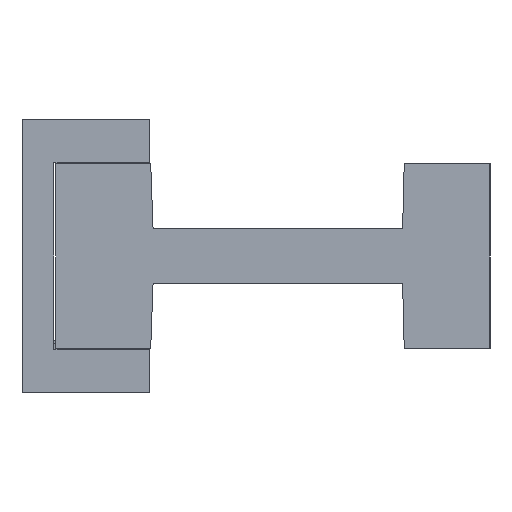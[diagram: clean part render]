
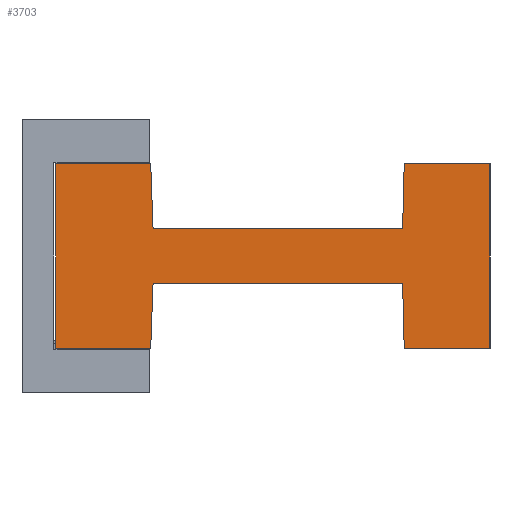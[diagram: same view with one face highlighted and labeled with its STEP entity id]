
A CAD part, left-side view. The second image highlights one B-rep face of the part: STEP entity #3703.
In plain terms, the highlighted planar face has unit normal (-1, 0, 0).
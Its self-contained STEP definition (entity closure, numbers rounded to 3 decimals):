
#48 = DIRECTION ( 'NONE',  ( 0., 0.036, -0.999 ) ) ;
#80 = EDGE_CURVE ( 'NONE', #104, #3376, #1808, .T. ) ;
#87 = VECTOR ( 'NONE', #710, 1000. ) ;
#104 = VERTEX_POINT ( 'NONE', #2620 ) ;
#170 = LINE ( 'NONE', #266, #4037 ) ;
#228 = CARTESIAN_POINT ( 'NONE',  ( -1.487, -60., 255.96 ) ) ;
#241 = DIRECTION ( 'NONE',  ( 0., 0.024, 1. ) ) ;
#257 = CARTESIAN_POINT ( 'NONE',  ( -1.487, -16.8, 240.61 ) ) ;
#266 = CARTESIAN_POINT ( 'NONE',  ( -1.487, -4.3, 255.96 ) ) ;
#287 = CARTESIAN_POINT ( 'NONE',  ( -1.487, -60., 232.26 ) ) ;
#418 = VECTOR ( 'NONE', #574, 1000. ) ;
#427 = CARTESIAN_POINT ( 'NONE',  ( -1.487, -16.8, 240.61 ) ) ;
#455 = LINE ( 'NONE', #3425, #2993 ) ;
#528 = ORIENTED_EDGE ( 'NONE', *, *, #3826, .T. ) ;
#574 = DIRECTION ( 'NONE',  ( 0., 0., 1. ) ) ;
#618 = CARTESIAN_POINT ( 'NONE',  ( -1.487, -48.8, 240.61 ) ) ;
#691 = CARTESIAN_POINT ( 'NONE',  ( -1.487, -4.3, 232.26 ) ) ;
#698 = VERTEX_POINT ( 'NONE', #3645 ) ;
#710 = DIRECTION ( 'NONE',  ( 0., 0.036, 0.999 ) ) ;
#735 = VERTEX_POINT ( 'NONE', #1980 ) ;
#817 = CARTESIAN_POINT ( 'NONE',  ( -1.487, -60., 232.26 ) ) ;
#899 = VECTOR ( 'NONE', #3677, 1000. ) ;
#927 = ORIENTED_EDGE ( 'NONE', *, *, #2356, .F. ) ;
#956 = CARTESIAN_POINT ( 'NONE',  ( -1.487, -49., 255.96 ) ) ;
#963 = DIRECTION ( 'NONE',  ( 0., 1., 0. ) ) ;
#1083 = VERTEX_POINT ( 'NONE', #427 ) ;
#1106 = LINE ( 'NONE', #4452, #1451 ) ;
#1154 = DIRECTION ( 'NONE',  ( 0., 1., 0. ) ) ;
#1161 = LINE ( 'NONE', #2603, #3671 ) ;
#1211 = CARTESIAN_POINT ( 'NONE',  ( -1.487, -48.8, 240.61 ) ) ;
#1229 = DIRECTION ( 'NONE',  ( 0., 0.024, -1. ) ) ;
#1262 = LINE ( 'NONE', #2748, #418 ) ;
#1282 = ORIENTED_EDGE ( 'NONE', *, *, #2179, .F. ) ;
#1286 = VERTEX_POINT ( 'NONE', #228 ) ;
#1297 = DIRECTION ( 'NONE',  ( -1., 0., 0. ) ) ;
#1304 = ORIENTED_EDGE ( 'NONE', *, *, #4257, .T. ) ;
#1324 = CARTESIAN_POINT ( 'NONE',  ( -1.487, -60., 244.11 ) ) ;
#1390 = LINE ( 'NONE', #691, #2987 ) ;
#1451 = VECTOR ( 'NONE', #1154, 1000. ) ;
#1536 = CARTESIAN_POINT ( 'NONE',  ( -1.487, -16.5, 232.26 ) ) ;
#1716 = EDGE_LOOP ( 'NONE', ( #2698, #2696, #4413, #2258, #927, #1282, #3011, #1304, #528, #1910, #2789, #4276 ) ) ;
#1734 = DIRECTION ( 'NONE',  ( 0., 1., 0. ) ) ;
#1774 = LINE ( 'NONE', #257, #3240 ) ;
#1808 = LINE ( 'NONE', #2912, #87 ) ;
#1908 = EDGE_CURVE ( 'NONE', #2676, #1286, #1262, .T. ) ;
#1910 = ORIENTED_EDGE ( 'NONE', *, *, #3670, .T. ) ;
#1980 = CARTESIAN_POINT ( 'NONE',  ( -1.487, -4.3, 232.26 ) ) ;
#2008 = LINE ( 'NONE', #817, #2109 ) ;
#2109 = VECTOR ( 'NONE', #2290, 1000. ) ;
#2179 = EDGE_CURVE ( 'NONE', #2676, #4303, #2008, .T. ) ;
#2192 = DIRECTION ( 'NONE',  ( 0., 1., 0. ) ) ;
#2258 = ORIENTED_EDGE ( 'NONE', *, *, #3653, .F. ) ;
#2290 = DIRECTION ( 'NONE',  ( 0., 1., 0. ) ) ;
#2356 = EDGE_CURVE ( 'NONE', #4303, #4056, #3584, .T. ) ;
#2536 = EDGE_CURVE ( 'NONE', #3376, #2804, #170, .T. ) ;
#2603 = CARTESIAN_POINT ( 'NONE',  ( -1.487, -16.8, 240.61 ) ) ;
#2620 = CARTESIAN_POINT ( 'NONE',  ( -1.487, -16.8, 247.61 ) ) ;
#2676 = VERTEX_POINT ( 'NONE', #287 ) ;
#2696 = ORIENTED_EDGE ( 'NONE', *, *, #3238, .F. ) ;
#2698 = ORIENTED_EDGE ( 'NONE', *, *, #3251, .T. ) ;
#2748 = CARTESIAN_POINT ( 'NONE',  ( -1.487, -60., 244.11 ) ) ;
#2781 = DIRECTION ( 'NONE',  ( 0., 0., 1. ) ) ;
#2789 = ORIENTED_EDGE ( 'NONE', *, *, #80, .T. ) ;
#2804 = VERTEX_POINT ( 'NONE', #3763 ) ;
#2912 = CARTESIAN_POINT ( 'NONE',  ( -1.487, -16.8, 247.61 ) ) ;
#2966 = CARTESIAN_POINT ( 'NONE',  ( -1.487, -16.5, 255.96 ) ) ;
#2987 = VECTOR ( 'NONE', #2192, 1000. ) ;
#2993 = VECTOR ( 'NONE', #1229, 1000. ) ;
#3011 = ORIENTED_EDGE ( 'NONE', *, *, #1908, .T. ) ;
#3151 = AXIS2_PLACEMENT_3D ( 'NONE', #1324, #1297, #2781 ) ;
#3182 = VERTEX_POINT ( 'NONE', #956 ) ;
#3238 = EDGE_CURVE ( 'NONE', #3343, #735, #1390, .T. ) ;
#3240 = VECTOR ( 'NONE', #4244, 1000. ) ;
#3251 = EDGE_CURVE ( 'NONE', #2804, #735, #3634, .T. ) ;
#3343 = VERTEX_POINT ( 'NONE', #1536 ) ;
#3354 = EDGE_CURVE ( 'NONE', #1083, #3343, #1161, .T. ) ;
#3364 = VECTOR ( 'NONE', #241, 1000. ) ;
#3376 = VERTEX_POINT ( 'NONE', #2966 ) ;
#3425 = CARTESIAN_POINT ( 'NONE',  ( -1.487, -48.8, 247.61 ) ) ;
#3584 = LINE ( 'NONE', #618, #3364 ) ;
#3634 = LINE ( 'NONE', #4387, #899 ) ;
#3645 = CARTESIAN_POINT ( 'NONE',  ( -1.487, -48.8, 247.61 ) ) ;
#3653 = EDGE_CURVE ( 'NONE', #4056, #1083, #1774, .T. ) ;
#3670 = EDGE_CURVE ( 'NONE', #698, #104, #4262, .T. ) ;
#3671 = VECTOR ( 'NONE', #48, 1000. ) ;
#3677 = DIRECTION ( 'NONE',  ( 0., 0., -1. ) ) ;
#3703 = ADVANCED_FACE ( 'NONE', ( #3963 ), #4588, .T. ) ;
#3763 = CARTESIAN_POINT ( 'NONE',  ( -1.487, -4.3, 255.96 ) ) ;
#3826 = EDGE_CURVE ( 'NONE', #3182, #698, #455, .T. ) ;
#3898 = CARTESIAN_POINT ( 'NONE',  ( -1.487, -49., 232.26 ) ) ;
#3963 = FACE_OUTER_BOUND ( 'NONE', #1716, .T. ) ;
#4037 = VECTOR ( 'NONE', #1734, 1000. ) ;
#4056 = VERTEX_POINT ( 'NONE', #1211 ) ;
#4244 = DIRECTION ( 'NONE',  ( 0., 1., 0. ) ) ;
#4257 = EDGE_CURVE ( 'NONE', #1286, #3182, #1106, .T. ) ;
#4262 = LINE ( 'NONE', #4693, #4671 ) ;
#4276 = ORIENTED_EDGE ( 'NONE', *, *, #2536, .T. ) ;
#4303 = VERTEX_POINT ( 'NONE', #3898 ) ;
#4387 = CARTESIAN_POINT ( 'NONE',  ( -1.487, -4.3, 255.96 ) ) ;
#4413 = ORIENTED_EDGE ( 'NONE', *, *, #3354, .F. ) ;
#4452 = CARTESIAN_POINT ( 'NONE',  ( -1.487, -60., 255.96 ) ) ;
#4588 = PLANE ( 'NONE',  #3151 ) ;
#4671 = VECTOR ( 'NONE', #963, 1000. ) ;
#4693 = CARTESIAN_POINT ( 'NONE',  ( -1.487, -16.8, 247.61 ) ) ;
